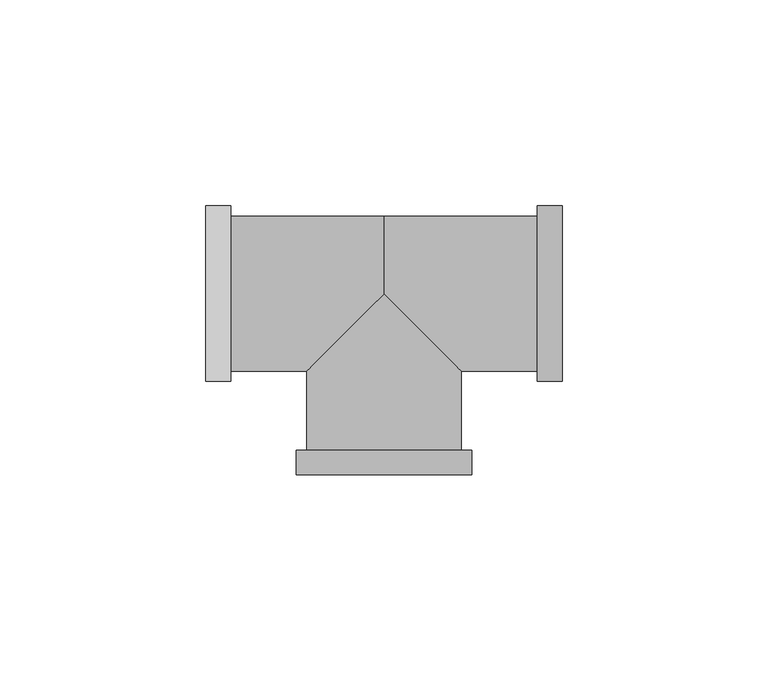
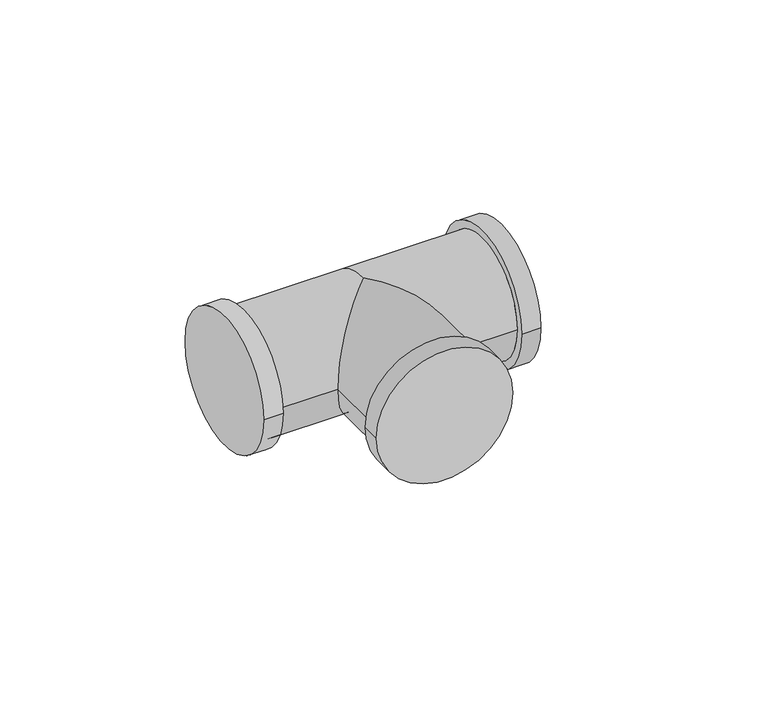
"""IFC4 building model written with IfcOpenShell, lengths in millimetres: pipe fitting geometry, Tê de redução - PVC - CW : Padrão."""

from ifc_helpers import new_model, si_unit, frame, origin, place, context, project, spatial, circle_curve, ellipse_curve, source, transform, mapped, element, save
from ifc_brep_helpers import plane_surface, cylinder_surface, advanced_brep


def pipe_fitting_03efc798(model_context):
    return source(origin(), model_context, "Body", "AdvancedBrep", [
        advanced_brep(
        [(37.25, 18.8, 0.0), (0.0, 18.8, 0.0), (0.0, 0.0, 18.8), (18.799976, -18.8, 0.0), (37.25, -18.8, 0.0), (0.0, 0.0, -18.8), (-37.25, 18.8, 0.0), (-37.25, -18.8, 0.0), (-18.800024, -18.8, 0.0), (18.7999514, -38.000024, 0.0), (-18.8000486, -37.999976, 0.0), (-37.25, 21.3, 0.0), (-37.25, -21.3, 0.0), (-43.25, 21.3, 0.0), (-43.25, -21.3, 0.0), (37.25, -21.3, 0.0), (37.25, 21.3, 0.0), (43.25, -21.3, 0.0), (43.25, 21.3, 0.0), (-21.3000486, -37.9999728, 0.0), (21.2999514, -38.0000272, 0.0), (-21.3000563, -43.9999728, 0.0), (21.2999437, -44.0000272, 0.0)],
        [
            (0, 1),
            (1, 2, circle_curve(frame((0.0, 0.0, 0.0), z_axis=(1.0, 0.0, 0.0), x_axis=(0.0, 1.0, 0.0)), 18.8)),
            (2, 3, ellipse_curve(frame((0.0, 0.0, 0.0), z_axis=(0.7071072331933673, 0.7071063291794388, 0.0), x_axis=(-0.7071063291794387, 0.7071072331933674, 0.0)), 26.587198, 18.8)),
            (3, 4),
            (4, 0, circle_curve(frame((37.25, 0.0, 0.0), z_axis=(-1.0, 0.0, 0.0), x_axis=(0.0, 1.0, 0.0)), 18.8)),
            (0, 4, circle_curve(frame((37.25, 0.0, 0.0), z_axis=(-1.0, 0.0, 0.0), x_axis=(0.0, 1.0, 0.0)), 18.8)),
            (3, 5, ellipse_curve(frame((0.0, 0.0, 0.0), z_axis=(0.7071072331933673, 0.7071063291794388, 0.0), x_axis=(-0.7071063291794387, 0.7071072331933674, 0.0)), 26.587198, 18.8)),
            (5, 1, circle_curve(frame((0.0, 0.0, 0.0), z_axis=(1.0, 0.0, 0.0), x_axis=(0.0, 1.0, 0.0)), 18.8)),
            (1, 6),
            (6, 7, circle_curve(frame((-37.25, 0.0, 0.0), z_axis=(1.0, 0.0, 0.0), x_axis=(0.0, 1.0, 0.0)), 18.8)),
            (7, 8),
            (8, 2, ellipse_curve(frame((0.0, 0.0, 0.0), z_axis=(-0.7071063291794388, 0.7071072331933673, 0.0), x_axis=(-0.7071072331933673, -0.7071063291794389, 0.0)), 26.587232, 18.8)),
            (5, 8, ellipse_curve(frame((0.0, 0.0, 0.0), z_axis=(-0.7071063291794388, 0.7071072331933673, 0.0), x_axis=(-0.7071072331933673, -0.7071063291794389, 0.0)), 26.587232, 18.8)),
            (7, 6, circle_curve(frame((-37.25, 0.0, 0.0), z_axis=(1.0, 0.0, 0.0), x_axis=(0.0, 1.0, 0.0)), 18.8)),
            (9, 3),
            (8, 10),
            (10, 9, circle_curve(frame((-4.86e-05, -38.0, 0.0), z_axis=(1.2784687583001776e-06, 0.9999999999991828, 0.0), x_axis=(0.9999999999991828, -1.2784687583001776e-06, 0.0)), 18.8)),
            (9, 10, circle_curve(frame((-4.86e-05, -38.0, 0.0), z_axis=(1.2784687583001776e-06, 0.9999999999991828, 0.0), x_axis=(0.9999999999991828, -1.2784687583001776e-06, 0.0)), 18.8)),
            (11, 12, circle_curve(frame((-37.25, 0.0, 0.0), z_axis=(1.0, 0.0, 0.0), x_axis=(0.0, -1.0, 0.0)), 21.3)),
            (12, 11, circle_curve(frame((-37.25, 0.0, 0.0), z_axis=(1.0, 0.0, 0.0), x_axis=(0.0, -1.0, 0.0)), 21.3)),
            (13, 14, circle_curve(frame((-43.25, 0.0, 0.0), z_axis=(-1.0, 0.0, 0.0), x_axis=(0.0, -1.0, 0.0)), 21.3)),
            (14, 13, circle_curve(frame((-43.25, 0.0, 0.0), z_axis=(-1.0, 0.0, 0.0), x_axis=(0.0, -1.0, 0.0)), 21.3)),
            (11, 13),
            (14, 12),
            (15, 16, circle_curve(frame((37.25, 0.0, 0.0), z_axis=(-1.0, 0.0, 0.0), x_axis=(0.0, 1.0, 0.0)), 21.3)),
            (16, 15, circle_curve(frame((37.25, 0.0, 0.0), z_axis=(-1.0, 0.0, 0.0), x_axis=(0.0, 1.0, 0.0)), 21.3)),
            (17, 18, circle_curve(frame((43.25, 0.0, 0.0), z_axis=(1.0, 0.0, 0.0), x_axis=(0.0, 1.0, 0.0)), 21.3)),
            (18, 17, circle_curve(frame((43.25, 0.0, 0.0), z_axis=(1.0, 0.0, 0.0), x_axis=(0.0, 1.0, 0.0)), 21.3)),
            (15, 17),
            (18, 16),
            (19, 20, circle_curve(frame((-4.86e-05, -38.0, 0.0), z_axis=(1.2784687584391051e-06, 0.9999999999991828, 0.0), x_axis=(0.9999999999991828, -1.2784687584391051e-06, 0.0)), 21.3)),
            (20, 19, circle_curve(frame((-4.86e-05, -38.0, 0.0), z_axis=(1.2784687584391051e-06, 0.9999999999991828, 0.0), x_axis=(0.9999999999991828, -1.2784687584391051e-06, 0.0)), 21.3)),
            (21, 22, circle_curve(frame((-5.63e-05, -44.0, 0.0), z_axis=(-1.2784687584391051e-06, -0.9999999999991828, 0.0), x_axis=(0.9999999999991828, -1.2784687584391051e-06, 0.0)), 21.3)),
            (22, 21, circle_curve(frame((-5.63e-05, -44.0, 0.0), z_axis=(-1.2784687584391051e-06, -0.9999999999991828, 0.0), x_axis=(0.9999999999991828, -1.2784687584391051e-06, 0.0)), 21.3)),
            (19, 21),
            (22, 20),
        ],
        [
            cylinder_surface(frame((0.0, 0.0, 0.0), z_axis=(-1.0, 0.0, 0.0), x_axis=(0.0, 1.0, 0.0)), 18.8),
            cylinder_surface(frame((-37.25, 0.0, 0.0), z_axis=(-1.0, 0.0, 0.0), x_axis=(0.0, 1.0, 0.0)), 18.8),
            cylinder_surface(frame((0.0, 0.0, 0.0), z_axis=(1.2784687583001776e-06, 0.9999999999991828, 0.0), x_axis=(0.9999999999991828, -1.2784687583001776e-06, 0.0)), 18.8),
            plane_surface(frame((-37.25, 0.0, 0.0), z_axis=(1.0, 0.0, 0.0), x_axis=(0.0, 0.0, 1.0))),
            plane_surface(frame((-43.25, 0.0, 0.0), z_axis=(-1.0, 0.0, 0.0), x_axis=(0.0, 0.0, 1.0))),
            cylinder_surface(frame((-37.25, 0.0, 0.0), z_axis=(1.0, 0.0, 0.0), x_axis=(0.0, -1.0, 0.0)), 21.3),
            plane_surface(frame((37.25, 0.0, 0.0), z_axis=(-1.0, 0.0, 0.0), x_axis=(0.0, 0.0, 1.0))),
            plane_surface(frame((43.25, 0.0, 0.0), z_axis=(1.0, 0.0, 0.0), x_axis=(0.0, 0.0, 1.0))),
            cylinder_surface(frame((37.25, 0.0, 0.0), z_axis=(-1.0, 0.0, 0.0), x_axis=(0.0, 1.0, 0.0)), 21.3),
            plane_surface(frame((-4.86e-05, -38.0, 0.0), z_axis=(1.2784687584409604e-06, 0.9999999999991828, 0.0), x_axis=(0.0, 0.0, 1.0))),
            plane_surface(frame((-5.63e-05, -44.0, 0.0), z_axis=(-1.2784687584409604e-06, -0.9999999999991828, 0.0), x_axis=(0.0, 0.0, 1.0))),
            cylinder_surface(frame((-4.86e-05, -38.0, 0.0), z_axis=(1.2784687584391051e-06, 0.9999999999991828, 0.0), x_axis=(0.9999999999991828, -1.2784687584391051e-06, 0.0)), 21.3),
        ],
        [
            (0, [[1, 2, 3, 4, 5]]),
            (0, [[-1, 6, -4, 7, 8]]),
            (1, [[9, 10, 11, 12, -2]]),
            (1, [[-9, -8, 13, -11, 14]]),
            (2, [[15, -3, -12, 16, 17]]),
            (2, [[-15, 18, -16, -13, -7]]),
            (3, [[19, 20], [-10, -14]]),
            (4, [[21, 22]]),
            (5, [[-19, 23, -22, 24]]),
            (5, [[-20, -24, -21, -23]]),
            (6, [[25, 26], [-5, -6]]),
            (7, [[27, 28]]),
            (8, [[-25, 29, -28, 30]]),
            (8, [[-26, -30, -27, -29]]),
            (9, [[31, 32], [-17, -18]]),
            (10, [[33, 34]]),
            (11, [[-31, 35, -34, 36]]),
            (11, [[-32, -36, -33, -35]]),
        ],
    ),
    ])


if __name__ == "__main__":
    model = new_model("IFC4")
    model_context = context("Model", 3, world=origin())
    ifc_project = project(units=[si_unit("LENGTHUNIT", "METRE", prefix="MILLI")], contexts=[model_context])
    site = spatial("IfcSite", under=ifc_project)
    building = spatial("IfcBuilding", under=site)
    placement = place(None, origin())
    pipe_fitting_shape = pipe_fitting_03efc798(model_context)
    element("IfcPipeFitting", 1, ObjectType="Tê de redução - PVC - CW : Padrão", at=placement, inside=building, context=model_context, shape_type="MappedRepresentation", body=[
        mapped(pipe_fitting_shape, transform((0.0, 0.0, 0.0), x_axis=(1.0, 0.0, 0.0), y_axis=(0.0, 1.0, 0.0), z_axis=(0.0, 0.0, 1.0))),
    ])
    save(model, "model.ifc")
